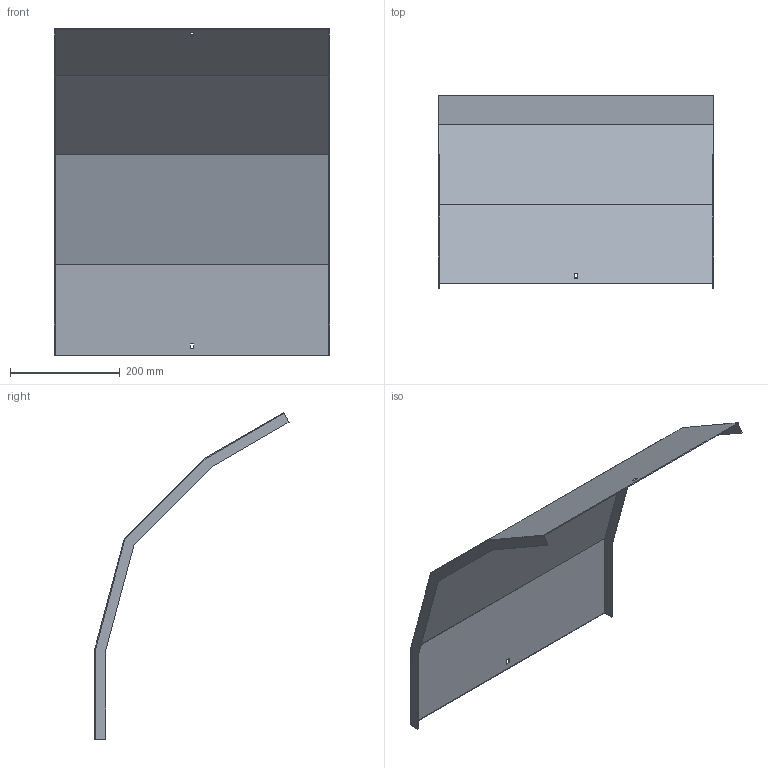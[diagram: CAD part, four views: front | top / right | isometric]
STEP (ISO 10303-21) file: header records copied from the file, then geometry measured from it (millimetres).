
FILE_DESCRIPTION (( 'STEP AP214' ), '1' );
FILE_NAME ('A2_41N3J500.step', '2025-02-21T10:40:40', ( '' ), ( '' ), 'SwSTEP 2.0', 'SolidWorks 2023', '' );
FILE_SCHEMA (( 'AUTOMOTIVE_DESIGN' ));
Length unit declared in the file: millimetre
Products named in the file (1): A2_41N3J500
Bounding box: 503 x 354.25 x 596.25 mm (x, y, z)
Volume: 603862 mm3; surface area: 809042.7 mm2
Topology: 1 solids, 1 shells, 30 faces, 84 edges, 56 vertices
Faces by surface type: plane 30
Entity records: 979 total; most frequent: CARTESIAN_POINT 171, ORIENTED_EDGE 168, DIRECTION 146, VECTOR 84, LINE 84, EDGE_CURVE 84, VERTEX_POINT 56, EDGE_LOOP 34
